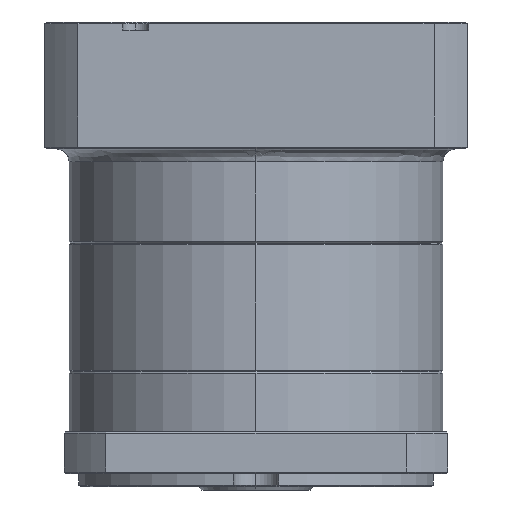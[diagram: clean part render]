
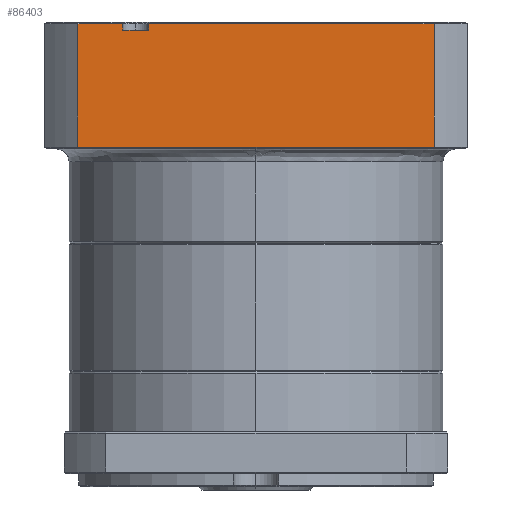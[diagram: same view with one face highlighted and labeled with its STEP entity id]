
A CAD part, left-side view. The second image highlights one B-rep face of the part: STEP entity #86403.
In plain terms, the highlighted planar face has unit normal (-1, 0, 0).
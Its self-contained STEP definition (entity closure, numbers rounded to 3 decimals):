
#54 = CARTESIAN_POINT ( 'NONE',  ( -7.723, 71.14, 1.568 ) ) ;
#631 = EDGE_CURVE ( 'NONE', #54291, #31873, #100683, .T. ) ;
#2218 = LINE ( 'NONE', #90518, #4955 ) ;
#3775 = ORIENTED_EDGE ( 'NONE', *, *, #103433, .T. ) ;
#4674 = LINE ( 'NONE', #34802, #89292 ) ;
#4955 = VECTOR ( 'NONE', #21476, 1000. ) ;
#5784 = CARTESIAN_POINT ( 'NONE',  ( -7.723, 71.14, 2.068 ) ) ;
#6836 = ORIENTED_EDGE ( 'NONE', *, *, #12557, .F. ) ;
#7194 = CARTESIAN_POINT ( 'NONE',  ( -7.723, 158.912, 2.068 ) ) ;
#8803 = VERTEX_POINT ( 'NONE', #25259 ) ;
#9516 = DIRECTION ( 'NONE',  ( 0., -1., 0. ) ) ;
#11376 = PLANE ( 'NONE',  #106878 ) ;
#11733 = DIRECTION ( 'NONE',  ( 0., 0., -1. ) ) ;
#12557 = EDGE_CURVE ( 'NONE', #103487, #15182, #78893, .T. ) ;
#14673 = CARTESIAN_POINT ( 'NONE',  ( -7.723, 71.14, -36.432 ) ) ;
#15182 = VERTEX_POINT ( 'NONE', #40566 ) ;
#21476 = DIRECTION ( 'NONE',  ( 0., 0., -1. ) ) ;
#23336 = DIRECTION ( 'NONE',  ( 0., 0., -1. ) ) ;
#23905 = DIRECTION ( 'NONE',  ( 0., 0., 1. ) ) ;
#25137 = LINE ( 'NONE', #96459, #40065 ) ;
#25259 = CARTESIAN_POINT ( 'NONE',  ( -7.723, 166.912, -0.432 ) ) ;
#31873 = VERTEX_POINT ( 'NONE', #77377 ) ;
#34802 = CARTESIAN_POINT ( 'NONE',  ( -7.723, 71.14, 1.568 ) ) ;
#36616 = ORIENTED_EDGE ( 'NONE', *, *, #99207, .F. ) ;
#37909 = VECTOR ( 'NONE', #66497, 1000. ) ;
#40065 = VECTOR ( 'NONE', #9516, 1000. ) ;
#40566 = CARTESIAN_POINT ( 'NONE',  ( -7.723, 180.684, 1.568 ) ) ;
#43293 = VERTEX_POINT ( 'NONE', #50230 ) ;
#44891 = ORIENTED_EDGE ( 'NONE', *, *, #79255, .F. ) ;
#46814 = VERTEX_POINT ( 'NONE', #70875 ) ;
#50230 = CARTESIAN_POINT ( 'NONE',  ( -7.723, 158.912, -0.432 ) ) ;
#51410 = VERTEX_POINT ( 'NONE', #97701 ) ;
#53686 = ORIENTED_EDGE ( 'NONE', *, *, #53699, .F. ) ;
#53699 = EDGE_CURVE ( 'NONE', #8803, #43293, #25137, .T. ) ;
#54291 = VERTEX_POINT ( 'NONE', #54 ) ;
#55094 = DIRECTION ( 'NONE',  ( 1., 0., 0. ) ) ;
#55571 = VECTOR ( 'NONE', #23905, 1000. ) ;
#57888 = LINE ( 'NONE', #7194, #111270 ) ;
#60305 = CARTESIAN_POINT ( 'NONE',  ( -7.723, 180.684, -36.432 ) ) ;
#60361 = CARTESIAN_POINT ( 'NONE',  ( -7.723, 180.684, 2.068 ) ) ;
#62550 = ORIENTED_EDGE ( 'NONE', *, *, #631, .F. ) ;
#63935 = DIRECTION ( 'NONE',  ( 0., -1., 0. ) ) ;
#65079 = CARTESIAN_POINT ( 'NONE',  ( -7.723, 71.14, 1.568 ) ) ;
#66161 = FACE_OUTER_BOUND ( 'NONE', #100715, .T. ) ;
#66497 = DIRECTION ( 'NONE',  ( 0., -1., 0. ) ) ;
#66914 = ORIENTED_EDGE ( 'NONE', *, *, #112033, .F. ) ;
#70875 = CARTESIAN_POINT ( 'NONE',  ( -7.723, 166.912, 1.568 ) ) ;
#72354 = CARTESIAN_POINT ( 'NONE',  ( -7.723, 71.14, 2.068 ) ) ;
#73353 = VECTOR ( 'NONE', #23336, 1000. ) ;
#74211 = VECTOR ( 'NONE', #63935, 1000. ) ;
#77377 = CARTESIAN_POINT ( 'NONE',  ( -7.723, 71.14, -36.432 ) ) ;
#78893 = LINE ( 'NONE', #60361, #55571 ) ;
#79255 = EDGE_CURVE ( 'NONE', #51410, #54291, #86486, .T. ) ;
#80190 = EDGE_CURVE ( 'NONE', #15182, #46814, #4674, .T. ) ;
#80338 = ORIENTED_EDGE ( 'NONE', *, *, #80190, .F. ) ;
#86403 = ADVANCED_FACE ( 'NONE', ( #66161 ), #11376, .F. ) ;
#86486 = LINE ( 'NONE', #65079, #74211 ) ;
#89292 = VECTOR ( 'NONE', #111940, 1000. ) ;
#90518 = CARTESIAN_POINT ( 'NONE',  ( -7.723, 166.912, 2.068 ) ) ;
#96459 = CARTESIAN_POINT ( 'NONE',  ( -7.723, 71.14, -0.432 ) ) ;
#97701 = CARTESIAN_POINT ( 'NONE',  ( -7.723, 158.912, 1.568 ) ) ;
#99207 = EDGE_CURVE ( 'NONE', #43293, #51410, #57888, .T. ) ;
#100683 = LINE ( 'NONE', #5784, #73353 ) ;
#100715 = EDGE_LOOP ( 'NONE', ( #3775, #62550, #44891, #36616, #53686, #66914, #80338, #6836 ) ) ;
#103313 = DIRECTION ( 'NONE',  ( 0., 0., 1. ) ) ;
#103433 = EDGE_CURVE ( 'NONE', #103487, #31873, #103450, .T. ) ;
#103450 = LINE ( 'NONE', #14673, #37909 ) ;
#103487 = VERTEX_POINT ( 'NONE', #60305 ) ;
#106878 = AXIS2_PLACEMENT_3D ( 'NONE', #72354, #55094, #11733 ) ;
#111270 = VECTOR ( 'NONE', #103313, 1000. ) ;
#111940 = DIRECTION ( 'NONE',  ( 0., -1., 0. ) ) ;
#112033 = EDGE_CURVE ( 'NONE', #46814, #8803, #2218, .T. ) ;
